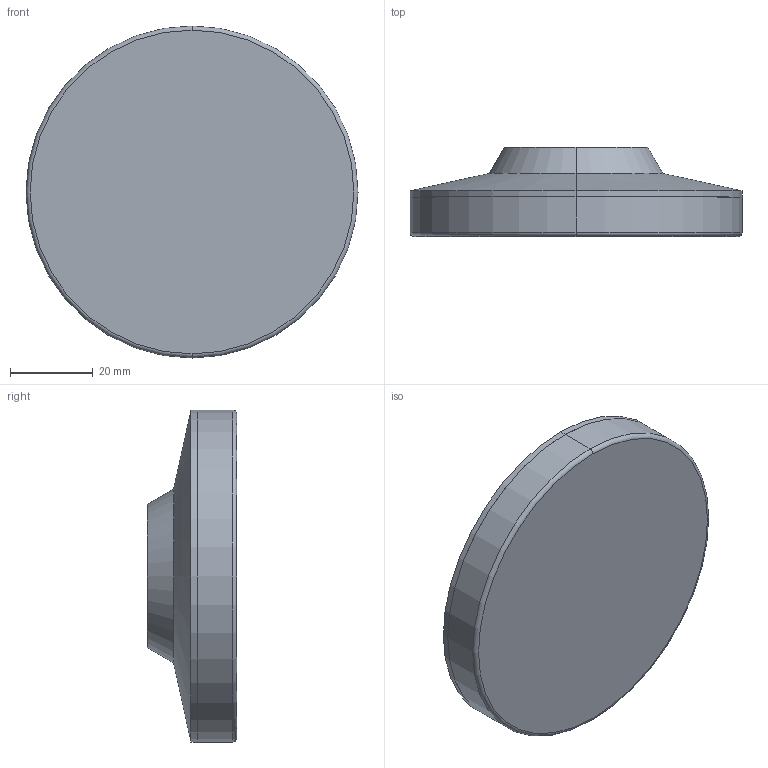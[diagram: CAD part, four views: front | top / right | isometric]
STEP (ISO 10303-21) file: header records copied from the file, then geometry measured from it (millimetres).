
FILE_DESCRIPTION (( 'STEP AP214' ), '1' );
FILE_NAME ('6311.3-80-20-R.step', '2023-04-17T05:34:32', ( '' ), ( '' ), 'SwSTEP 2.0', 'SolidWorks 2022', '' );
FILE_SCHEMA (( 'AUTOMOTIVE_DESIGN' ));
Length unit declared in the file: millimetre
Products named in the file (1): 6311.3-80-20-R
Bounding box: 80 x 21.5 x 80 mm (x, y, z)
Volume: 72242.9 mm3; surface area: 15761.2 mm2
Topology: 1 solids, 1 shells, 36 faces, 79 edges, 50 vertices
Faces by surface type: cylinder 16, plane 8, torus 6, cone 4, sphere 2
Entity records: 1150 total; most frequent: CARTESIAN_POINT 202, DIRECTION 201, ORIENTED_EDGE 158, AXIS2_PLACEMENT_3D 89, EDGE_CURVE 79, CIRCLE 52, VERTEX_POINT 50, EDGE_LOOP 41
